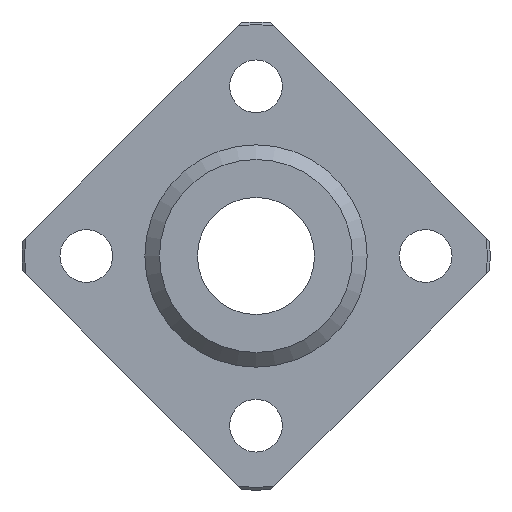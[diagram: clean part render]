
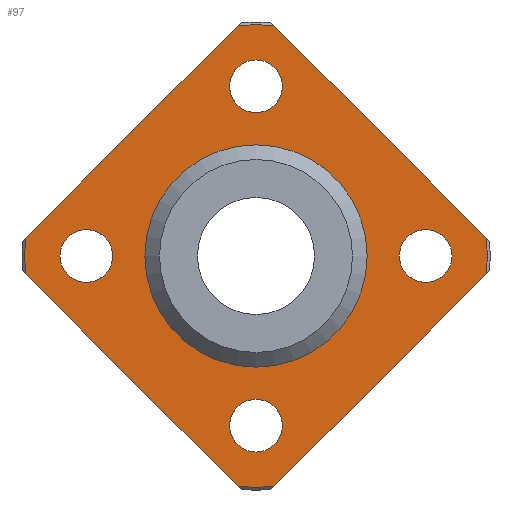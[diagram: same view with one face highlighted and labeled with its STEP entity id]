
A CAD part, left-side view. The second image highlights one B-rep face of the part: STEP entity #97.
In plain terms, the highlighted planar face has unit normal (-1, 0, 0).
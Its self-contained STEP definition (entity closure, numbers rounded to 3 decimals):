
#97=ADVANCED_FACE('',(#168,#169,#170,#171,#172,#173),#174,.F.);
#168=FACE_OUTER_BOUND('',#271,.T.);
#169=FACE_BOUND('',#272,.T.);
#170=FACE_BOUND('',#273,.T.);
#171=FACE_BOUND('',#274,.T.);
#172=FACE_BOUND('',#275,.T.);
#173=FACE_BOUND('',#276,.T.);
#174=PLANE('',#277);
#271=EDGE_LOOP('',(#482,#483,#484,#485,#486,#487,#488,#489));
#272=EDGE_LOOP('',(#490));
#273=EDGE_LOOP('',(#491));
#274=EDGE_LOOP('',(#492));
#275=EDGE_LOOP('',(#493));
#276=EDGE_LOOP('',(#494));
#277=AXIS2_PLACEMENT_3D('',#495,#496,#497);
#482=ORIENTED_EDGE('',*,*,#625,.T.);
#483=ORIENTED_EDGE('',*,*,#633,.T.);
#484=ORIENTED_EDGE('',*,*,#621,.T.);
#485=ORIENTED_EDGE('',*,*,#589,.T.);
#486=ORIENTED_EDGE('',*,*,#623,.T.);
#487=ORIENTED_EDGE('',*,*,#596,.T.);
#488=ORIENTED_EDGE('',*,*,#582,.T.);
#489=ORIENTED_EDGE('',*,*,#578,.T.);
#490=ORIENTED_EDGE('',*,*,#634,.T.);
#491=ORIENTED_EDGE('',*,*,#635,.T.);
#492=ORIENTED_EDGE('',*,*,#636,.T.);
#493=ORIENTED_EDGE('',*,*,#637,.T.);
#494=ORIENTED_EDGE('',*,*,#632,.T.);
#495=CARTESIAN_POINT('',(-9.0,19.746,0.0));
#496=DIRECTION('',(1.0,0.0,0.0));
#497=DIRECTION('',(0.0,0.0,-1.0));
#578=EDGE_CURVE('',#655,#653,#656,.T.);
#582=EDGE_CURVE('',#662,#655,#663,.T.);
#589=EDGE_CURVE('',#676,#674,#677,.T.);
#596=EDGE_CURVE('',#689,#662,#690,.T.);
#621=EDGE_CURVE('',#728,#676,#729,.T.);
#623=EDGE_CURVE('',#674,#689,#731,.T.);
#625=EDGE_CURVE('',#653,#732,#734,.T.);
#632=EDGE_CURVE('',#747,#747,#748,.T.);
#633=EDGE_CURVE('',#732,#728,#749,.T.);
#634=EDGE_CURVE('',#750,#750,#751,.T.);
#635=EDGE_CURVE('',#752,#752,#753,.T.);
#636=EDGE_CURVE('',#754,#754,#755,.T.);
#637=EDGE_CURVE('',#756,#756,#757,.T.);
#653=VERTEX_POINT('',#786);
#655=VERTEX_POINT('',#791);
#656=LINE('',#792,#793);
#662=VERTEX_POINT('',#806);
#663=CIRCLE('',#807,19.746);
#674=VERTEX_POINT('',#826);
#676=VERTEX_POINT('',#831);
#677=LINE('',#832,#833);
#689=VERTEX_POINT('',#857);
#690=LINE('',#858,#859);
#728=VERTEX_POINT('',#913);
#729=CIRCLE('',#914,19.746);
#731=CIRCLE('',#919,19.746);
#732=VERTEX_POINT('',#920);
#734=CIRCLE('',#925,19.746);
#747=VERTEX_POINT('',#938);
#748=CIRCLE('',#939,9.5);
#749=LINE('',#940,#941);
#750=VERTEX_POINT('',#942);
#751=CIRCLE('',#943,2.25);
#752=VERTEX_POINT('',#944);
#753=CIRCLE('',#945,2.25);
#754=VERTEX_POINT('',#946);
#755=CIRCLE('',#947,2.25);
#756=VERTEX_POINT('',#948);
#757=CIRCLE('',#949,2.25);
#786=CARTESIAN_POINT('',(-9.0,-1.526,19.687));
#791=CARTESIAN_POINT('',(-9.0,-19.687,1.526));
#792=CARTESIAN_POINT('',(-9.0,-0.734,20.48));
#793=VECTOR('',#968,1.0);
#806=CARTESIAN_POINT('',(-9.0,-19.687,-1.526));
#807=AXIS2_PLACEMENT_3D('',#970,#971,#972);
#826=CARTESIAN_POINT('',(-9.0,1.526,-19.687));
#831=CARTESIAN_POINT('',(-9.0,19.687,-1.526));
#832=CARTESIAN_POINT('',(-9.0,20.48,-0.734));
#833=VECTOR('',#978,1.0);
#857=CARTESIAN_POINT('',(-9.0,-1.526,-19.687));
#858=CARTESIAN_POINT('',(-9.0,-0.734,-20.48));
#859=VECTOR('',#982,1.0);
#913=CARTESIAN_POINT('',(-9.0,19.687,1.526));
#914=AXIS2_PLACEMENT_3D('',#1035,#1036,#1037);
#919=AXIS2_PLACEMENT_3D('',#1038,#1039,#1040);
#920=CARTESIAN_POINT('',(-9.0,1.526,19.687));
#925=AXIS2_PLACEMENT_3D('',#1041,#1042,#1043);
#938=CARTESIAN_POINT('',(-9.0,0.0,-9.5));
#939=AXIS2_PLACEMENT_3D('',#1062,#1063,#1064);
#940=CARTESIAN_POINT('',(-9.0,20.48,0.734));
#941=VECTOR('',#1065,1.0);
#942=CARTESIAN_POINT('',(-9.0,0.0,12.25));
#943=AXIS2_PLACEMENT_3D('',#1066,#1067,#1068);
#944=CARTESIAN_POINT('',(-9.0,-14.5,-2.25));
#945=AXIS2_PLACEMENT_3D('',#1069,#1070,#1071);
#946=CARTESIAN_POINT('',(-9.0,0.0,-16.75));
#947=AXIS2_PLACEMENT_3D('',#1072,#1073,#1074);
#948=CARTESIAN_POINT('',(-9.0,14.5,-2.25));
#949=AXIS2_PLACEMENT_3D('',#1075,#1076,#1077);
#968=DIRECTION('',(0.0,0.707,0.707));
#970=CARTESIAN_POINT('',(-9.0,0.0,0.0));
#971=DIRECTION('',(-1.0,0.0,0.0));
#972=DIRECTION('',(0.0,0.0,1.0));
#978=DIRECTION('',(0.0,-0.707,-0.707));
#982=DIRECTION('',(0.0,-0.707,0.707));
#1035=CARTESIAN_POINT('',(-9.0,0.0,0.0));
#1036=DIRECTION('',(-1.0,0.0,0.0));
#1037=DIRECTION('',(0.0,0.0,1.0));
#1038=CARTESIAN_POINT('',(-9.0,0.0,0.0));
#1039=DIRECTION('',(-1.0,0.0,0.0));
#1040=DIRECTION('',(0.0,0.0,1.0));
#1041=CARTESIAN_POINT('',(-9.0,0.0,0.0));
#1042=DIRECTION('',(-1.0,0.0,0.0));
#1043=DIRECTION('',(0.0,0.0,1.0));
#1062=CARTESIAN_POINT('',(-9.0,0.0,0.0));
#1063=DIRECTION('',(1.0,0.0,0.0));
#1064=DIRECTION('',(0.0,0.0,-1.0));
#1065=DIRECTION('',(0.0,0.707,-0.707));
#1066=CARTESIAN_POINT('',(-9.0,0.0,14.5));
#1067=DIRECTION('',(1.0,0.0,0.0));
#1068=DIRECTION('',(0.0,0.0,-1.0));
#1069=CARTESIAN_POINT('',(-9.0,-14.5,0.0));
#1070=DIRECTION('',(1.0,0.0,0.0));
#1071=DIRECTION('',(0.0,0.0,-1.0));
#1072=CARTESIAN_POINT('',(-9.0,0.0,-14.5));
#1073=DIRECTION('',(1.0,0.0,0.0));
#1074=DIRECTION('',(0.0,0.0,-1.0));
#1075=CARTESIAN_POINT('',(-9.0,14.5,0.0));
#1076=DIRECTION('',(1.0,0.0,0.0));
#1077=DIRECTION('',(0.0,0.0,-1.0));
